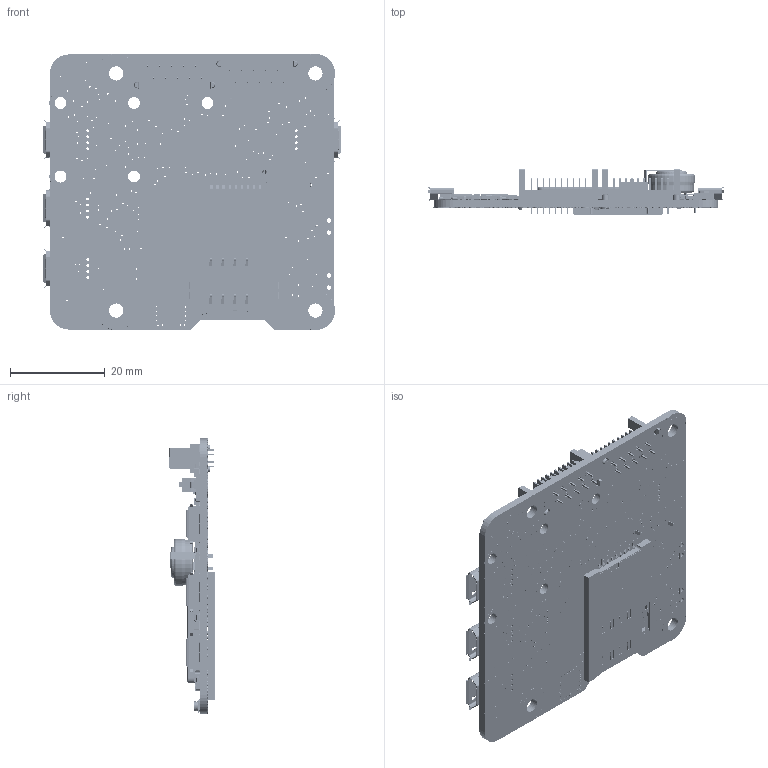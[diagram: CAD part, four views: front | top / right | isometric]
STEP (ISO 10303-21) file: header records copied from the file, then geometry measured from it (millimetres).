
FILE_DESCRIPTION (( 'STEP AP214' ), '1' );
FILE_NAME ('YHUBGSM1.STEP', '2016-01-20T13:48:46', ( 'martinm' ), ( '' ), 'SwSTEP 2.0', 'SolidWorks 2008', '' );
FILE_SCHEMA (( 'AUTOMOTIVE_DESIGN' ));
Length unit declared in the file: millimetre
Products named in the file (52): PCB; ANT1_Défaut; C1; C7; C12; C18; C19; C22; C23; C31; C33; C35; C38; C39; C94; CPU1; D4; D8; FLASH1; GSM1_Défaut; IO1; IO2_Défaut; LED4; P2; P5_Défaut; R1; R7; R9; R12; R16; R17; R20; R22; R27; R28; R30; R35; R62; REG2_Défaut; REG3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
Assembly tree (121 placements, depth 2):
  YHUBGSM1
    C7  x2
    C94  x8
    D8  x4
    LED4  x4
    R27  x5
    REG3  x2
    Ybutton  x3
    C35  x12
    C33  x4
    R1
    r34  x10
    R62  x3
    USB1  x4
    T6  x5
    T94  x3
    R9  x3
    R30  x2
    C22
    C38  x5
    R16  x2
    R20
    Y1
    FLASH1
    P2  x2
    C1
    C23  x2
    R28
    P5_Défaut
    T5
    PCB
    ANT1_Défaut
    C18  x2
    IO2_Défaut
    R12
    R17
    IO1
    REG2_Défaut
    SW1
    R35  x2
    YLED
    C39
    sens1
    C12
    C19  x2
    R22  x3
    C31
    D4
    R7
    CPU1
    RTC1
    GSM1_Défaut
Bounding box: 62.65 x 9.54 x 58.25 mm (x, y, z)
Volume: 8210.5 mm3; surface area: 15849.6 mm2
Topology: 170 solids, 170 shells, 19054 faces, 49477 edges, 32101 vertices
Faces by surface type: plane 12355, cylinder 4467, bspline 1842, sphere 333, torus 39, cone 18
Entity records: 603355 total; most frequent: CARTESIAN_POINT 151536, ORIENTED_EDGE 67756, DIRECTION 61385, EDGE_CURVE 33878, LINE 24589, VECTOR 24589, VERTEX_POINT 22356, AXIS2_PLACEMENT_3D 18398
